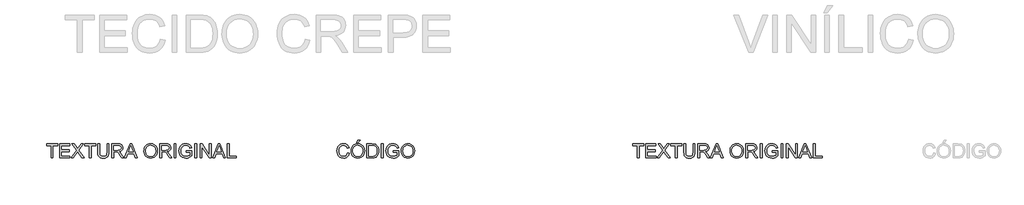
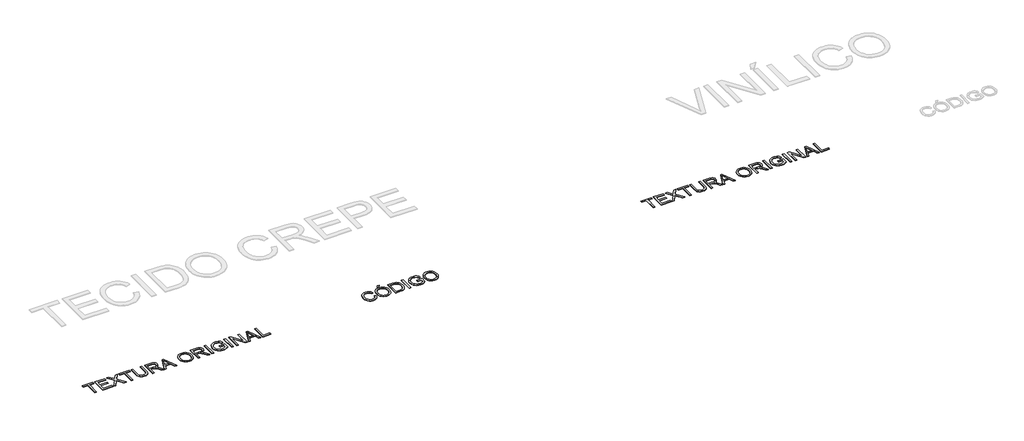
# One storey, part 6 of 19: 3 proxies.
"""IFC4 building model written with IfcOpenShell, lengths in millimetres."""

from ifc_helpers import new_model, si_unit, origin, origin_with_axes, place, context, project, spatial, polyline, outline, extrude, element, save

model = new_model("IFC4")

# Units and contexts
model_context = context("Model", 3, world=origin())
ifc_project = project(units=[si_unit("LENGTHUNIT", "METRE", prefix="MILLI")], contexts=[model_context])

# Site, building, storey
site = spatial("IfcSite", under=ifc_project)
building = spatial("IfcBuilding", under=site)
storey = spatial("IfcBuildingStorey", under=building, Name="Marelli - Linha ACTIVE - Planta Baixa", Elevation=0.0)

# Proxies
placement = place(None, origin())
element("IfcBuildingElementProxy", 1, Name="300mm Arial", ObjectType="300mm Arial", at=placement, inside=storey, context=model_context, shape_type="SweptSolid", body=[
    extrude(outline(polyline([(-24700.8246463, -104673.4390831), (-24663.15353, -104683.1511677), (-24670.6077389, -104706.5783531), (-24680.5359543, -104727.0486868), (-24692.938176, -104744.5621691), (-24707.8144042, -104759.1187998), (-24724.8289465, -104770.5622291), (-24743.6461105, -104778.7361071), (-24764.2658964, -104783.640434), (-24786.688304, -104785.2752096), (-24830.383488, -104780.3271968), (-24865.0839571, -104765.4831583), (-24891.6818254, -104741.2581289), (-24911.0692065, -104708.1671434), (-24922.9058097, -104669.2636224), (-24926.8513441, -104627.6009865), (-24922.3907749, -104583.6574822), (-24909.0090674, -104545.7104543), (-24887.4051972, -104514.9647166), (-24858.2781402, -104492.6250824), (-24823.7340209, -104479.0226457), (-24785.8789636, -104474.4885001), (-24744.5750126, -104480.3562179), (-24726.6062764, -104487.6908652), (-24710.4263664, -104497.9593714), (-24696.301997, -104510.8904235), (-24684.4998828, -104526.2127086), (-24667.8624195, -104564.0309777), (-24705.5335358, -104573.0072984), (-24718.5933467, -104545.5357104), (-24736.4356234, -104526.6909552), (-24759.2810953, -104515.7924511), (-24787.3504916, -104512.1596164), (-24819.705713, -104516.1879242), (-24846.2851872, -104528.2728478), (-24866.4543176, -104547.1451941), (-24879.5785078, -104571.5357704), (-24886.7797978, -104599.1085259), (-24889.1802278, -104627.5274101), (-24886.3383394, -104662.3290468), (-24877.8126742, -104692.421794), (-24863.2813354, -104716.6560205), (-24842.4224262, -104733.8820949), (-24817.4156476, -104744.1735937), (-24790.4407003, -104747.6040933), (-24758.9959868, -104742.931992), (-24732.7935917, -104728.9156879), (-24713.0107374, -104705.7023341), (-24700.8246463, -104673.4390831)])), origin_with_axes(), (0.0, 0.0, 1.0), 10.0),
    extrude(outline(polyline([(-24625.4824137, -104633.8549804), (-24622.9716191, -104598.5061192), (-24615.4392352, -104567.213157), (-24602.8852621, -104539.9760937), (-24585.3096998, -104516.7949295), (-24563.7656105, -104498.2858666), (-24539.3060563, -104485.0651074), (-24511.9310374, -104477.1326519), (-24481.6405536, -104474.4885001), (-24442.1116332, -104479.454907), (-24406.666203, -104494.3541278), (-24377.2356433, -104518.1376988), (-24355.7513348, -104549.7571563), (-24342.6179476, -104587.68579), (-24338.2401519, -104630.3968896), (-24342.8478738, -104673.6782064), (-24356.6710398, -104712.140269), (-24378.9462946, -104743.8149088), (-24408.9102831, -104766.7339571), (-24444.0522107, -104780.6398965), (-24481.8612828, -104785.2752096), (-24521.9972084, -104780.1524528), (-24557.6449738, -104764.7841825), (-24587.001957, -104740.5591531), (-24608.2655363, -104708.8661192), (-24621.1781943, -104672.3998164), (-24625.4824137, -104633.8549804)]), holes=[polyline([(-24587.8112974, -104634.2228624), (-24585.9282014, -104659.1974513), (-24580.2789135, -104681.3669401), (-24570.8634337, -104700.7313286), (-24557.681762, -104717.2906169), (-24541.6582018, -104730.5527628), (-24523.7170568, -104740.0257242), (-24503.8583268, -104745.709501), (-24482.082012, -104747.6040933), (-24459.9332166, -104745.6911069), (-24439.8399619, -104739.9521478), (-24421.8022478, -104730.3872159), (-24405.8200744, -104716.9963113), (-24392.7349717, -104700.0875351), (-24383.3884697, -104679.9689885), (-24377.7805685, -104656.6406715), (-24375.9112682, -104630.102584), (-24379.1118415, -104596.7540812), (-24388.7135616, -104567.9305269), (-24404.468108, -104544.358488), (-24426.1271605, -104526.7645316), (-24452.2559792, -104515.8108452), (-24481.4198244, -104512.1596164), (-24502.4396819, -104513.9185522), (-24521.9420261, -104519.1953595), (-24539.9268572, -104527.9900385), (-24556.394175, -104540.302589), (-24570.139166, -104556.7262208), (-24579.9570168, -104577.8541437), (-24585.8477272, -104603.6863575), (-24587.8112974, -104634.2228624)])]), origin_with_axes(), (0.0, 0.0, 1.0), 10.0),
    extrude(outline(polyline([(-24507.7601752, -104460.3618315), (-24479.506838, -104403.855157), (-24432.4179426, -104403.855157), (-24479.506838, -104460.3618315), (-24507.7601752, -104460.3618315)])), origin_with_axes(), (0.0, 0.0, 1.0), 10.0),
    extrude(outline(polyline([(-24286.4423669, -104780.5663201), (-24286.4423669, -104479.1973896), (-24182.4789151, -104479.1973896), (-24128.6945674, -104483.5383972), (-24104.6718731, -104491.9077126), (-24084.4015752, -104505.0962821), (-24063.5610602, -104528.0521186), (-24048.7170217, -104556.5997614), (-24039.8326715, -104590.1873876), (-24036.8712214, -104628.2631741), (-24038.8761783, -104660.6091985), (-24044.8910489, -104689.0740679), (-24054.0513106, -104713.3082943), (-24065.4924406, -104732.9623899), (-24078.6626161, -104748.477813), (-24093.0100139, -104760.2960221), (-24109.4819302, -104769.0608107), (-24129.0256612, -104775.4159721), (-24177.47572, -104780.5663201), (-24286.4423669, -104780.5663201)]), holes=[polyline([(-24248.7712506, -104742.8952038), (-24182.1110331, -104742.8952038), (-24154.5382776, -104741.5340404), (-24133.6241861, -104737.4505502), (-24117.8420485, -104730.8838566), (-24105.6651545, -104722.0730828), (-24092.5777525, -104705.7667134), (-24082.7461062, -104684.6594839), (-24076.5932798, -104658.6594239), (-24074.5423377, -104627.6745629), (-24078.5614485, -104586.6189322), (-24090.6187809, -104556.3054558), (-24108.4334665, -104535.4833349), (-24129.724637, -104522.9017706), (-24151.3928865, -104518.3768221), (-24183.1411027, -104516.8685059), (-24248.7712506, -104516.8685059), (-24248.7712506, -104742.8952038)])]), origin_with_axes(), (0.0, 0.0, 1.0), 10.0),
    extrude(outline(polyline([(-23980.3645469, -104780.5663201), (-23980.3645469, -104479.1973896), (-23942.6934306, -104479.1973896), (-23942.6934306, -104780.5663201), (-23980.3645469, -104780.5663201)])), origin_with_axes(), (0.0, 0.0, 1.0), 10.0),
    extrude(outline(polyline([(-23726.0845119, -104662.8440816), (-23726.0845119, -104625.1729653), (-23603.6533839, -104625.1729653), (-23603.6533839, -104737.8184322), (-23633.4058402, -104758.5117945), (-23664.0963957, -104773.355833), (-23695.6514738, -104782.2953654), (-23727.9974983, -104785.2752096), (-23770.2579425, -104780.5387289), (-23808.4532906, -104766.3292869), (-23840.1831127, -104743.1435241), (-23863.0469787, -104711.4780814), (-23876.8701447, -104673.4942654), (-23881.4778666, -104631.3533828), (-23876.8885388, -104588.9089976), (-23863.1205551, -104549.4260625), (-23840.7441327, -104516.3074859), (-23810.3294888, -104492.9561762), (-23773.2837719, -104479.1054191), (-23731.0141306, -104474.4885001), (-23699.9832843, -104477.1648416), (-23672.079435, -104485.1938661), (-23648.5809725, -104497.9961596), (-23630.7662869, -104514.9923078), (-23617.5869145, -104537.0008481), (-23607.9943914, -104564.8403181), (-23642.7224518, -104574.6259792), (-23650.4755648, -104554.7695485), (-23659.9025409, -104539.7875542), (-23672.3737406, -104528.493577), (-23689.2595242, -104519.7011973), (-23709.3918663, -104514.0450116), (-23731.6027418, -104512.1596164), (-23757.6028018, -104514.1921644), (-23779.8320714, -104520.2898085), (-23798.207777, -104529.6891935), (-23812.6471453, -104541.6269642), (-23832.0345265, -104570.6528536), (-23840.8636944, -104599.0901318), (-23843.8067503, -104629.8082784), (-23840.2658861, -104665.8331228), (-23829.6432935, -104695.4752146), (-23812.2608693, -104718.5230216), (-23788.4405101, -104734.7650117), (-23760.5642519, -104744.3943229), (-23731.0141306, -104747.6040933), (-23704.9221001, -104745.1852692), (-23679.4738631, -104737.9287968), (-23657.3733522, -104727.9316036), (-23641.3245002, -104717.2906169), (-23641.3245002, -104662.8440816), (-23726.0845119, -104662.8440816)])), origin_with_axes(), (0.0, 0.0, 1.0), 10.0),
    extrude(outline(polyline([(-23556.5644885, -104633.8549804), (-23554.0536939, -104598.5061192), (-23546.52131, -104567.213157), (-23533.9673369, -104539.9760937), (-23516.3917746, -104516.7949295), (-23494.8476853, -104498.2858666), (-23470.3881311, -104485.0651074), (-23443.0131122, -104477.1326519), (-23412.7226284, -104474.4885001), (-23373.193708, -104479.454907), (-23337.7482778, -104494.3541278), (-23308.3177182, -104518.1376988), (-23286.8334096, -104549.7571563), (-23273.7000224, -104587.68579), (-23269.3222267, -104630.3968896), (-23273.9299487, -104673.6782064), (-23287.7531146, -104712.140269), (-23310.0283694, -104743.8149088), (-23339.9923579, -104766.7339571), (-23375.1342855, -104780.6398965), (-23412.9433576, -104785.2752096), (-23453.0792833, -104780.1524528), (-23488.7270486, -104764.7841825), (-23518.0840318, -104740.5591531), (-23539.3476111, -104708.8661192), (-23552.2602692, -104672.3998164), (-23556.5644885, -104633.8549804)]), holes=[polyline([(-23518.8933722, -104634.2228624), (-23517.0102762, -104659.1974513), (-23511.3609883, -104681.3669401), (-23501.9455085, -104700.7313286), (-23488.7638368, -104717.2906169), (-23472.7402766, -104730.5527628), (-23454.7991316, -104740.0257242), (-23434.9404016, -104745.709501), (-23413.1640868, -104747.6040933), (-23391.0152914, -104745.6911069), (-23370.9220367, -104739.9521478), (-23352.8843226, -104730.3872159), (-23336.9021492, -104716.9963113), (-23323.8170465, -104700.0875351), (-23314.4705445, -104679.9689885), (-23308.8626434, -104656.6406715), (-23306.993343, -104630.102584), (-23310.1939163, -104596.7540812), (-23319.7956364, -104567.9305269), (-23335.5501829, -104544.358488), (-23357.2092353, -104526.7645316), (-23383.338054, -104515.8108452), (-23412.5018992, -104512.1596164), (-23433.5217567, -104513.9185522), (-23453.024101, -104519.1953595), (-23471.008932, -104527.9900385), (-23487.4762498, -104540.302589), (-23501.2212409, -104556.7262208), (-23511.0390916, -104577.8541437), (-23516.929802, -104603.6863575), (-23518.8933722, -104634.2228624)])]), origin_with_axes(), (0.0, 0.0, 1.0), 10.0),
])
element("IfcBuildingElementProxy", 2, Name="300mm Arial", ObjectType="300mm Arial", at=placement, inside=storey, context=model_context, shape_type="SweptSolid", body=[
    extrude(outline(polyline([(-31021.6681618, -104780.5663201), (-31021.6681618, -104516.8685059), (-31120.5548421, -104516.8685059), (-31120.5548421, -104479.1973896), (-30885.1103652, -104479.1973896), (-30885.1103652, -104516.8685059), (-30983.9970455, -104516.8685059), (-30983.9970455, -104780.5663201), (-31021.6681618, -104780.5663201)])), origin_with_axes(), (0.0, 0.0, 1.0), 10.0),
    extrude(outline(polyline([(-30842.7303593, -104780.5663201), (-30842.7303593, -104479.1973896), (-30626.1214406, -104479.1973896), (-30626.1214406, -104516.8685059), (-30805.059243, -104516.8685059), (-30805.059243, -104606.3374072), (-30635.5392196, -104606.3374072), (-30635.5392196, -104644.0085235), (-30805.059243, -104644.0085235), (-30805.059243, -104742.8952038), (-30621.412551, -104742.8952038), (-30621.412551, -104780.5663201), (-30842.7303593, -104780.5663201)])), origin_with_axes(), (0.0, 0.0, 1.0), 10.0),
    extrude(outline(polyline([(-30597.8681033, -104780.5663201), (-30481.6909693, -104616.3437974), (-30579.0325452, -104479.1973896), (-30533.8566362, -104479.1973896), (-30479.0422189, -104556.3790322), (-30460.5745427, -104586.4717794), (-30438.9430814, -104555.8639974), (-30384.7172753, -104479.1973896), (-30338.8791787, -104479.1973896), (-30436.2207547, -104616.7852558), (-30320.0436206, -104780.5663201), (-30365.2195296, -104780.5663201), (-30442.6219014, -104671.3789439), (-30458.7351328, -104648.717413), (-30476.4670449, -104673.5862359), (-30552.0300067, -104780.5663201), (-30597.8681033, -104780.5663201)])), origin_with_axes(), (0.0, 0.0, 1.0), 10.0),
    extrude(outline(polyline([(-30207.0302717, -104780.5663201), (-30207.0302717, -104516.8685059), (-30305.916952, -104516.8685059), (-30305.916952, -104479.1973896), (-30070.4724751, -104479.1973896), (-30070.4724751, -104516.8685059), (-30169.3591554, -104516.8685059), (-30169.3591554, -104780.5663201), (-30207.0302717, -104780.5663201)])), origin_with_axes(), (0.0, 0.0, 1.0), 10.0),
    extrude(outline(polyline([(-29830.3191086, -104479.1973896), (-29792.6479923, -104479.1973896), (-29792.6479923, -104653.0584205), (-29795.2047722, -104693.7737604), (-29802.8751118, -104725.1265034), (-29817.2041155, -104749.3147446), (-29839.7368877, -104768.5365788), (-29870.5286107, -104781.0905519), (-29909.6344668, -104785.2752096), (-29947.8849972, -104781.6331779), (-29978.4651881, -104770.7070826), (-30001.3842364, -104752.8740029), (-30016.6513392, -104728.5110178), (-30025.2321867, -104695.8338995), (-30028.0924692, -104653.0584205), (-30028.0924692, -104479.1973896), (-29990.4213529, -104479.1973896), (-29990.4213529, -104651.7340454), (-29988.5635488, -104685.588386), (-29982.9901366, -104709.1604248), (-29972.8917758, -104725.4851883), (-29957.4591261, -104737.597703), (-29937.335981, -104745.1024957), (-29913.1661339, -104747.6040933), (-29874.8512241, -104742.6560805), (-29860.5084248, -104736.4710644), (-29849.375396, -104727.812042), (-29841.0382702, -104715.6351479), (-29835.0831804, -104698.8965171), (-29830.3191086, -104651.7340454), (-29830.3191086, -104479.1973896)])), origin_with_axes(), (0.0, 0.0, 1.0), 10.0),
    extrude(outline(polyline([(-29726.7235388, -104780.5663201), (-29726.7235388, -104479.1973896), (-29596.8611945, -104479.1973896), (-29561.9583902, -104481.2299376), (-29536.5653355, -104487.3275817), (-29518.0056888, -104498.5847708), (-29503.6031087, -104516.0959537), (-29494.3600736, -104537.8101885), (-29491.2790618, -104561.6765329), (-29496.3834245, -104591.36461), (-29511.6965126, -104615.9759154), (-29523.2962917, -104626.0052983), (-29537.6781785, -104634.0205273), (-29574.7882748, -104644.0085235), (-29553.3775426, -104660.1217548), (-29522.843337, -104698.8965171), (-29472.5906565, -104780.5663201), (-29516.3686139, -104780.5663201), (-29555.5848346, -104718.0999573), (-29583.9117482, -104676.750021), (-29603.8141642, -104657.2154871), (-29621.7300173, -104650.0417882), (-29643.5822079, -104648.717413), (-29689.0524225, -104648.717413), (-29689.0524225, -104780.5663201), (-29726.7235388, -104780.5663201)]), holes=[polyline([(-29689.0524225, -104611.0462967), (-29604.7338692, -104611.0462967), (-29580.5180368, -104609.7127245), (-29561.7284639, -104605.7120078), (-29547.5834012, -104598.7774322), (-29537.3010994, -104588.6422832), (-29531.0379085, -104576.3826157), (-29528.9501782, -104563.0744845), (-29532.9325008, -104544.6987789), (-29544.8794685, -104529.8915286), (-29565.434875, -104520.1242616), (-29595.2425137, -104516.8685059), (-29689.0524225, -104516.8685059), (-29689.0524225, -104611.0462967)])]), origin_with_axes(), (0.0, 0.0, 1.0), 10.0),
    extrude(outline(polyline([(-29460.4505507, -104780.5663201), (-29340.1531382, -104479.1973896), (-29308.0738283, -104479.1973896), (-29187.7764158, -104780.5663201), (-29227.5812477, -104780.5663201), (-29262.0885789, -104686.3885293), (-29386.211964, -104686.3885293), (-29420.6457188, -104780.5663201), (-29460.4505507, -104780.5663201)]), holes=[polyline([(-29372.379601, -104648.717413), (-29275.8473655, -104648.717413), (-29302.9970567, -104574.6259792), (-29324.1134832, -104516.8685059), (-29342.875465, -104568.1512561), (-29372.379601, -104648.717413)])]), origin_with_axes(), (0.0, 0.0, 1.0), 10.0),
    extrude(outline(polyline([(-29043.9345557, -104633.8549804), (-29041.4237611, -104598.5061192), (-29033.8913772, -104567.213157), (-29021.3374042, -104539.9760937), (-29003.7618418, -104516.7949295), (-28982.2177525, -104498.2858666), (-28957.7581983, -104485.0651074), (-28930.3831794, -104477.1326519), (-28900.0926956, -104474.4885001), (-28860.5637752, -104479.454907), (-28825.118345, -104494.3541278), (-28795.6877854, -104518.1376988), (-28774.2034768, -104549.7571563), (-28761.0700896, -104587.68579), (-28756.6922939, -104630.3968896), (-28761.3000159, -104673.6782064), (-28775.1231818, -104712.140269), (-28797.3984366, -104743.8149088), (-28827.3624252, -104766.7339571), (-28862.5043527, -104780.6398965), (-28900.3134248, -104785.2752096), (-28940.4493505, -104780.1524528), (-28976.0971158, -104764.7841825), (-29005.454099, -104740.5591531), (-29026.7176783, -104708.8661192), (-29039.6303364, -104672.3998164), (-29043.9345557, -104633.8549804)]), holes=[polyline([(-29006.2634394, -104634.2228624), (-29004.3803434, -104659.1974513), (-28998.7310556, -104681.3669401), (-28989.3155757, -104700.7313286), (-28976.133904, -104717.2906169), (-28960.1103438, -104730.5527628), (-28942.1691988, -104740.0257242), (-28922.3104688, -104745.709501), (-28900.534154, -104747.6040933), (-28878.3853586, -104745.6911069), (-28858.2921039, -104739.9521478), (-28840.2543898, -104730.3872159), (-28824.2722164, -104716.9963113), (-28811.1871137, -104700.0875351), (-28801.8406117, -104679.9689885), (-28796.2327106, -104656.6406715), (-28794.3634102, -104630.102584), (-28797.5639835, -104596.7540812), (-28807.1657036, -104567.9305269), (-28822.9202501, -104544.358488), (-28844.5793025, -104526.7645316), (-28870.7081212, -104515.8108452), (-28899.8719664, -104512.1596164), (-28920.8918239, -104513.9185522), (-28940.3941682, -104519.1953595), (-28958.3789992, -104527.9900385), (-28974.846317, -104540.302589), (-28988.5913081, -104556.7262208), (-28998.4091588, -104577.8541437), (-29004.2998693, -104603.6863575), (-29006.2634394, -104634.2228624)])]), origin_with_axes(), (0.0, 0.0, 1.0), 10.0),
    extrude(outline(polyline([(-28704.894509, -104780.5663201), (-28704.894509, -104479.1973896), (-28575.0321647, -104479.1973896), (-28540.1293604, -104481.2299376), (-28514.7363057, -104487.3275817), (-28496.176659, -104498.5847708), (-28481.7740789, -104516.0959537), (-28472.5310438, -104537.8101885), (-28469.450032, -104561.6765329), (-28474.5543947, -104591.36461), (-28489.8674828, -104615.9759154), (-28501.4672619, -104626.0052983), (-28515.8491487, -104634.0205273), (-28552.959245, -104644.0085235), (-28531.5485128, -104660.1217548), (-28501.0143072, -104698.8965171), (-28450.7616267, -104780.5663201), (-28494.5395841, -104780.5663201), (-28533.7558048, -104718.0999573), (-28562.0827184, -104676.750021), (-28581.9851344, -104657.2154871), (-28599.9009875, -104650.0417882), (-28621.753178, -104648.717413), (-28667.2233927, -104648.717413), (-28667.2233927, -104780.5663201), (-28704.894509, -104780.5663201)]), holes=[polyline([(-28667.2233927, -104611.0462967), (-28582.9048394, -104611.0462967), (-28558.689007, -104609.7127245), (-28539.8994341, -104605.7120078), (-28525.7543714, -104598.7774322), (-28515.4720696, -104588.6422832), (-28509.2088787, -104576.3826157), (-28507.1211484, -104563.0744845), (-28511.1034709, -104544.6987789), (-28523.0504387, -104529.8915286), (-28543.6058452, -104520.1242616), (-28573.4134839, -104516.8685059), (-28667.2233927, -104516.8685059), (-28667.2233927, -104611.0462967)])]), origin_with_axes(), (0.0, 0.0, 1.0), 10.0),
    extrude(outline(polyline([(-28398.816689, -104780.5663201), (-28398.816689, -104479.1973896), (-28361.1455727, -104479.1973896), (-28361.1455727, -104780.5663201), (-28398.816689, -104780.5663201)])), origin_with_axes(), (0.0, 0.0, 1.0), 10.0),
    extrude(outline(polyline([(-28144.5366539, -104662.8440816), (-28144.5366539, -104625.1729653), (-28022.1055259, -104625.1729653), (-28022.1055259, -104737.8184322), (-28051.8579823, -104758.5117945), (-28082.5485377, -104773.355833), (-28114.1036159, -104782.2953654), (-28146.4496403, -104785.2752096), (-28188.7100845, -104780.5387289), (-28226.9054326, -104766.3292869), (-28258.6352547, -104743.1435241), (-28281.4991207, -104711.4780814), (-28295.3222867, -104673.4942654), (-28299.9300087, -104631.3533828), (-28295.3406808, -104588.9089976), (-28281.5726971, -104549.4260625), (-28259.1962748, -104516.3074859), (-28228.7816308, -104492.9561762), (-28191.7359139, -104479.1054191), (-28149.4662726, -104474.4885001), (-28118.4354263, -104477.1648416), (-28090.531577, -104485.1938661), (-28067.0331146, -104497.9961596), (-28049.218429, -104514.9923078), (-28036.0390565, -104537.0008481), (-28026.4465335, -104564.8403181), (-28061.1745938, -104574.6259792), (-28068.9277068, -104554.7695485), (-28078.354683, -104539.7875542), (-28090.8258826, -104528.493577), (-28107.7116662, -104519.7011973), (-28127.8440084, -104514.0450116), (-28150.0548838, -104512.1596164), (-28176.0549438, -104514.1921644), (-28198.2842134, -104520.2898085), (-28216.6599191, -104529.6891935), (-28231.0992874, -104541.6269642), (-28250.4866685, -104570.6528536), (-28259.3158364, -104599.0901318), (-28262.2588924, -104629.8082784), (-28258.7180282, -104665.8331228), (-28248.0954355, -104695.4752146), (-28230.7130113, -104718.5230216), (-28206.8926521, -104734.7650117), (-28179.0163939, -104744.3943229), (-28149.4662726, -104747.6040933), (-28123.3742421, -104745.1852692), (-28097.9260051, -104737.9287968), (-28075.8254943, -104727.9316036), (-28059.7766422, -104717.2906169), (-28059.7766422, -104662.8440816), (-28144.5366539, -104662.8440816)])), origin_with_axes(), (0.0, 0.0, 1.0), 10.0),
    extrude(outline(polyline([(-27956.1810724, -104780.5663201), (-27956.1810724, -104479.1973896), (-27918.5099561, -104479.1973896), (-27918.5099561, -104780.5663201), (-27956.1810724, -104780.5663201)])), origin_with_axes(), (0.0, 0.0, 1.0), 10.0),
    extrude(outline(polyline([(-27843.1677235, -104780.5663201), (-27843.1677235, -104479.1973896), (-27802.8478568, -104479.1973896), (-27645.3943628, -104717.9528045), (-27645.3943628, -104479.1973896), (-27607.7232465, -104479.1973896), (-27607.7232465, -104780.5663201), (-27648.0431132, -104780.5663201), (-27805.4966072, -104541.7373288), (-27805.4966072, -104780.5663201), (-27843.1677235, -104780.5663201)])), origin_with_axes(), (0.0, 0.0, 1.0), 10.0),
    extrude(outline(polyline([(-27576.8947353, -104780.5663201), (-27456.5973229, -104479.1973896), (-27424.5180129, -104479.1973896), (-27304.2206005, -104780.5663201), (-27344.0254324, -104780.5663201), (-27378.5327635, -104686.3885293), (-27502.6561487, -104686.3885293), (-27537.0899035, -104780.5663201), (-27576.8947353, -104780.5663201)]), holes=[polyline([(-27488.8237857, -104648.717413), (-27392.2915502, -104648.717413), (-27419.4412414, -104574.6259792), (-27440.5576679, -104516.8685059), (-27459.3196497, -104568.1512561), (-27488.8237857, -104648.717413)])]), origin_with_axes(), (0.0, 0.0, 1.0), 10.0),
    extrude(outline(polyline([(-27263.9743103, -104780.5663201), (-27263.9743103, -104479.1973896), (-27226.3031939, -104479.1973896), (-27226.3031939, -104742.8952038), (-27075.6187287, -104742.8952038), (-27075.6187287, -104780.5663201), (-27263.9743103, -104780.5663201)])), origin_with_axes(), (0.0, 0.0, 1.0), 10.0),
])
element("IfcBuildingElementProxy", 3, Name="300mm Arial", ObjectType="300mm Arial", at=placement, inside=storey, context=model_context, shape_type="SweptSolid", body=[
    extrude(outline(polyline([(-18521.6681618, -104780.5663201), (-18521.6681618, -104516.8685059), (-18620.5548421, -104516.8685059), (-18620.5548421, -104479.1973896), (-18385.1103652, -104479.1973896), (-18385.1103652, -104516.8685059), (-18483.9970455, -104516.8685059), (-18483.9970455, -104780.5663201), (-18521.6681618, -104780.5663201)])), origin_with_axes(), (0.0, 0.0, 1.0), 10.0),
    extrude(outline(polyline([(-18342.7303593, -104780.5663201), (-18342.7303593, -104479.1973896), (-18126.1214406, -104479.1973896), (-18126.1214406, -104516.8685059), (-18305.059243, -104516.8685059), (-18305.059243, -104606.3374072), (-18135.5392196, -104606.3374072), (-18135.5392196, -104644.0085235), (-18305.059243, -104644.0085235), (-18305.059243, -104742.8952038), (-18121.412551, -104742.8952038), (-18121.412551, -104780.5663201), (-18342.7303593, -104780.5663201)])), origin_with_axes(), (0.0, 0.0, 1.0), 10.0),
    extrude(outline(polyline([(-18097.8681033, -104780.5663201), (-17981.6909693, -104616.3437974), (-18079.0325452, -104479.1973896), (-18033.8566362, -104479.1973896), (-17979.0422189, -104556.3790322), (-17960.5745427, -104586.4717794), (-17938.9430814, -104555.8639974), (-17884.7172753, -104479.1973896), (-17838.8791787, -104479.1973896), (-17936.2207547, -104616.7852558), (-17820.0436206, -104780.5663201), (-17865.2195296, -104780.5663201), (-17942.6219014, -104671.3789439), (-17958.7351328, -104648.717413), (-17976.4670449, -104673.5862359), (-18052.0300067, -104780.5663201), (-18097.8681033, -104780.5663201)])), origin_with_axes(), (0.0, 0.0, 1.0), 10.0),
    extrude(outline(polyline([(-17707.0302717, -104780.5663201), (-17707.0302717, -104516.8685059), (-17805.916952, -104516.8685059), (-17805.916952, -104479.1973896), (-17570.4724751, -104479.1973896), (-17570.4724751, -104516.8685059), (-17669.3591554, -104516.8685059), (-17669.3591554, -104780.5663201), (-17707.0302717, -104780.5663201)])), origin_with_axes(), (0.0, 0.0, 1.0), 10.0),
    extrude(outline(polyline([(-17330.3191086, -104479.1973896), (-17292.6479923, -104479.1973896), (-17292.6479923, -104653.0584205), (-17295.2047722, -104693.7737604), (-17302.8751118, -104725.1265034), (-17317.2041155, -104749.3147446), (-17339.7368877, -104768.5365788), (-17370.5286107, -104781.0905519), (-17409.6344668, -104785.2752096), (-17447.8849972, -104781.6331779), (-17478.4651881, -104770.7070826), (-17501.3842364, -104752.8740029), (-17516.6513392, -104728.5110178), (-17525.2321867, -104695.8338995), (-17528.0924692, -104653.0584205), (-17528.0924692, -104479.1973896), (-17490.4213529, -104479.1973896), (-17490.4213529, -104651.7340454), (-17488.5635488, -104685.588386), (-17482.9901366, -104709.1604248), (-17472.8917758, -104725.4851883), (-17457.4591261, -104737.597703), (-17437.335981, -104745.1024957), (-17413.1661339, -104747.6040933), (-17374.8512241, -104742.6560805), (-17360.5084248, -104736.4710644), (-17349.375396, -104727.812042), (-17341.0382702, -104715.6351479), (-17335.0831804, -104698.8965171), (-17330.3191086, -104651.7340454), (-17330.3191086, -104479.1973896)])), origin_with_axes(), (0.0, 0.0, 1.0), 10.0),
    extrude(outline(polyline([(-17226.7235388, -104780.5663201), (-17226.7235388, -104479.1973896), (-17096.8611945, -104479.1973896), (-17061.9583902, -104481.2299376), (-17036.5653355, -104487.3275817), (-17018.0056888, -104498.5847708), (-17003.6031087, -104516.0959537), (-16994.3600736, -104537.8101885), (-16991.2790618, -104561.6765329), (-16996.3834245, -104591.36461), (-17011.6965126, -104615.9759154), (-17023.2962917, -104626.0052983), (-17037.6781785, -104634.0205273), (-17074.7882748, -104644.0085235), (-17053.3775426, -104660.1217548), (-17022.843337, -104698.8965171), (-16972.5906565, -104780.5663201), (-17016.3686139, -104780.5663201), (-17055.5848346, -104718.0999573), (-17083.9117482, -104676.750021), (-17103.8141642, -104657.2154871), (-17121.7300173, -104650.0417882), (-17143.5822079, -104648.717413), (-17189.0524225, -104648.717413), (-17189.0524225, -104780.5663201), (-17226.7235388, -104780.5663201)]), holes=[polyline([(-17189.0524225, -104611.0462967), (-17104.7338692, -104611.0462967), (-17080.5180368, -104609.7127245), (-17061.7284639, -104605.7120078), (-17047.5834012, -104598.7774322), (-17037.3010994, -104588.6422832), (-17031.0379085, -104576.3826157), (-17028.9501782, -104563.0744845), (-17032.9325008, -104544.6987789), (-17044.8794685, -104529.8915286), (-17065.434875, -104520.1242616), (-17095.2425137, -104516.8685059), (-17189.0524225, -104516.8685059), (-17189.0524225, -104611.0462967)])]), origin_with_axes(), (0.0, 0.0, 1.0), 10.0),
    extrude(outline(polyline([(-16960.4505507, -104780.5663201), (-16840.1531382, -104479.1973896), (-16808.0738283, -104479.1973896), (-16687.7764158, -104780.5663201), (-16727.5812477, -104780.5663201), (-16762.0885789, -104686.3885293), (-16886.211964, -104686.3885293), (-16920.6457188, -104780.5663201), (-16960.4505507, -104780.5663201)]), holes=[polyline([(-16872.379601, -104648.717413), (-16775.8473655, -104648.717413), (-16802.9970567, -104574.6259792), (-16824.1134832, -104516.8685059), (-16842.875465, -104568.1512561), (-16872.379601, -104648.717413)])]), origin_with_axes(), (0.0, 0.0, 1.0), 10.0),
    extrude(outline(polyline([(-16543.9345557, -104633.8549804), (-16541.4237611, -104598.5061192), (-16533.8913772, -104567.213157), (-16521.3374042, -104539.9760937), (-16503.7618418, -104516.7949295), (-16482.2177525, -104498.2858666), (-16457.7581983, -104485.0651074), (-16430.3831794, -104477.1326519), (-16400.0926956, -104474.4885001), (-16360.5637752, -104479.454907), (-16325.118345, -104494.3541278), (-16295.6877854, -104518.1376988), (-16274.2034768, -104549.7571563), (-16261.0700896, -104587.68579), (-16256.6922939, -104630.3968896), (-16261.3000159, -104673.6782064), (-16275.1231818, -104712.140269), (-16297.3984366, -104743.8149088), (-16327.3624252, -104766.7339571), (-16362.5043527, -104780.6398965), (-16400.3134248, -104785.2752096), (-16440.4493505, -104780.1524528), (-16476.0971158, -104764.7841825), (-16505.454099, -104740.5591531), (-16526.7176783, -104708.8661192), (-16539.6303364, -104672.3998164), (-16543.9345557, -104633.8549804)]), holes=[polyline([(-16506.2634394, -104634.2228624), (-16504.3803434, -104659.1974513), (-16498.7310556, -104681.3669401), (-16489.3155757, -104700.7313286), (-16476.133904, -104717.2906169), (-16460.1103438, -104730.5527628), (-16442.1691988, -104740.0257242), (-16422.3104688, -104745.709501), (-16400.534154, -104747.6040933), (-16378.3853586, -104745.6911069), (-16358.2921039, -104739.9521478), (-16340.2543898, -104730.3872159), (-16324.2722164, -104716.9963113), (-16311.1871137, -104700.0875351), (-16301.8406117, -104679.9689885), (-16296.2327106, -104656.6406715), (-16294.3634102, -104630.102584), (-16297.5639835, -104596.7540812), (-16307.1657036, -104567.9305269), (-16322.9202501, -104544.358488), (-16344.5793025, -104526.7645316), (-16370.7081212, -104515.8108452), (-16399.8719664, -104512.1596164), (-16420.8918239, -104513.9185522), (-16440.3941682, -104519.1953595), (-16458.3789992, -104527.9900385), (-16474.846317, -104540.302589), (-16488.5913081, -104556.7262208), (-16498.4091588, -104577.8541437), (-16504.2998693, -104603.6863575), (-16506.2634394, -104634.2228624)])]), origin_with_axes(), (0.0, 0.0, 1.0), 10.0),
    extrude(outline(polyline([(-16204.894509, -104780.5663201), (-16204.894509, -104479.1973896), (-16075.0321647, -104479.1973896), (-16040.1293604, -104481.2299376), (-16014.7363057, -104487.3275817), (-15996.176659, -104498.5847708), (-15981.7740789, -104516.0959537), (-15972.5310438, -104537.8101885), (-15969.450032, -104561.6765329), (-15974.5543947, -104591.36461), (-15989.8674828, -104615.9759154), (-16001.4672619, -104626.0052983), (-16015.8491487, -104634.0205273), (-16052.959245, -104644.0085235), (-16031.5485128, -104660.1217548), (-16001.0143072, -104698.8965171), (-15950.7616267, -104780.5663201), (-15994.5395841, -104780.5663201), (-16033.7558048, -104718.0999573), (-16062.0827184, -104676.750021), (-16081.9851344, -104657.2154871), (-16099.9009875, -104650.0417882), (-16121.753178, -104648.717413), (-16167.2233927, -104648.717413), (-16167.2233927, -104780.5663201), (-16204.894509, -104780.5663201)]), holes=[polyline([(-16167.2233927, -104611.0462967), (-16082.9048394, -104611.0462967), (-16058.689007, -104609.7127245), (-16039.8994341, -104605.7120078), (-16025.7543714, -104598.7774322), (-16015.4720696, -104588.6422832), (-16009.2088787, -104576.3826157), (-16007.1211484, -104563.0744845), (-16011.1034709, -104544.6987789), (-16023.0504387, -104529.8915286), (-16043.6058452, -104520.1242616), (-16073.4134839, -104516.8685059), (-16167.2233927, -104516.8685059), (-16167.2233927, -104611.0462967)])]), origin_with_axes(), (0.0, 0.0, 1.0), 10.0),
    extrude(outline(polyline([(-15898.816689, -104780.5663201), (-15898.816689, -104479.1973896), (-15861.1455727, -104479.1973896), (-15861.1455727, -104780.5663201), (-15898.816689, -104780.5663201)])), origin_with_axes(), (0.0, 0.0, 1.0), 10.0),
    extrude(outline(polyline([(-15644.5366539, -104662.8440816), (-15644.5366539, -104625.1729653), (-15522.1055259, -104625.1729653), (-15522.1055259, -104737.8184322), (-15551.8579823, -104758.5117945), (-15582.5485377, -104773.355833), (-15614.1036159, -104782.2953654), (-15646.4496403, -104785.2752096), (-15688.7100845, -104780.5387289), (-15726.9054326, -104766.3292869), (-15758.6352547, -104743.1435241), (-15781.4991207, -104711.4780814), (-15795.3222867, -104673.4942654), (-15799.9300087, -104631.3533828), (-15795.3406808, -104588.9089976), (-15781.5726971, -104549.4260625), (-15759.1962748, -104516.3074859), (-15728.7816308, -104492.9561762), (-15691.7359139, -104479.1054191), (-15649.4662726, -104474.4885001), (-15618.4354263, -104477.1648416), (-15590.531577, -104485.1938661), (-15567.0331146, -104497.9961596), (-15549.218429, -104514.9923078), (-15536.0390565, -104537.0008481), (-15526.4465335, -104564.8403181), (-15561.1745938, -104574.6259792), (-15568.9277068, -104554.7695485), (-15578.354683, -104539.7875542), (-15590.8258826, -104528.493577), (-15607.7116662, -104519.7011973), (-15627.8440084, -104514.0450116), (-15650.0548838, -104512.1596164), (-15676.0549438, -104514.1921644), (-15698.2842134, -104520.2898085), (-15716.6599191, -104529.6891935), (-15731.0992874, -104541.6269642), (-15750.4866685, -104570.6528536), (-15759.3158364, -104599.0901318), (-15762.2588924, -104629.8082784), (-15758.7180282, -104665.8331228), (-15748.0954355, -104695.4752146), (-15730.7130113, -104718.5230216), (-15706.8926521, -104734.7650117), (-15679.0163939, -104744.3943229), (-15649.4662726, -104747.6040933), (-15623.3742421, -104745.1852692), (-15597.9260051, -104737.9287968), (-15575.8254943, -104727.9316036), (-15559.7766422, -104717.2906169), (-15559.7766422, -104662.8440816), (-15644.5366539, -104662.8440816)])), origin_with_axes(), (0.0, 0.0, 1.0), 10.0),
    extrude(outline(polyline([(-15456.1810724, -104780.5663201), (-15456.1810724, -104479.1973896), (-15418.5099561, -104479.1973896), (-15418.5099561, -104780.5663201), (-15456.1810724, -104780.5663201)])), origin_with_axes(), (0.0, 0.0, 1.0), 10.0),
    extrude(outline(polyline([(-15343.1677235, -104780.5663201), (-15343.1677235, -104479.1973896), (-15302.8478568, -104479.1973896), (-15145.3943628, -104717.9528045), (-15145.3943628, -104479.1973896), (-15107.7232465, -104479.1973896), (-15107.7232465, -104780.5663201), (-15148.0431132, -104780.5663201), (-15305.4966072, -104541.7373288), (-15305.4966072, -104780.5663201), (-15343.1677235, -104780.5663201)])), origin_with_axes(), (0.0, 0.0, 1.0), 10.0),
    extrude(outline(polyline([(-15076.8947353, -104780.5663201), (-14956.5973229, -104479.1973896), (-14924.5180129, -104479.1973896), (-14804.2206005, -104780.5663201), (-14844.0254324, -104780.5663201), (-14878.5327635, -104686.3885293), (-15002.6561487, -104686.3885293), (-15037.0899035, -104780.5663201), (-15076.8947353, -104780.5663201)]), holes=[polyline([(-14988.8237857, -104648.717413), (-14892.2915502, -104648.717413), (-14919.4412414, -104574.6259792), (-14940.5576679, -104516.8685059), (-14959.3196497, -104568.1512561), (-14988.8237857, -104648.717413)])]), origin_with_axes(), (0.0, 0.0, 1.0), 10.0),
    extrude(outline(polyline([(-14763.9743103, -104780.5663201), (-14763.9743103, -104479.1973896), (-14726.3031939, -104479.1973896), (-14726.3031939, -104742.8952038), (-14575.6187287, -104742.8952038), (-14575.6187287, -104780.5663201), (-14763.9743103, -104780.5663201)])), origin_with_axes(), (0.0, 0.0, 1.0), 10.0),
])

save(model, "model.ifc")
